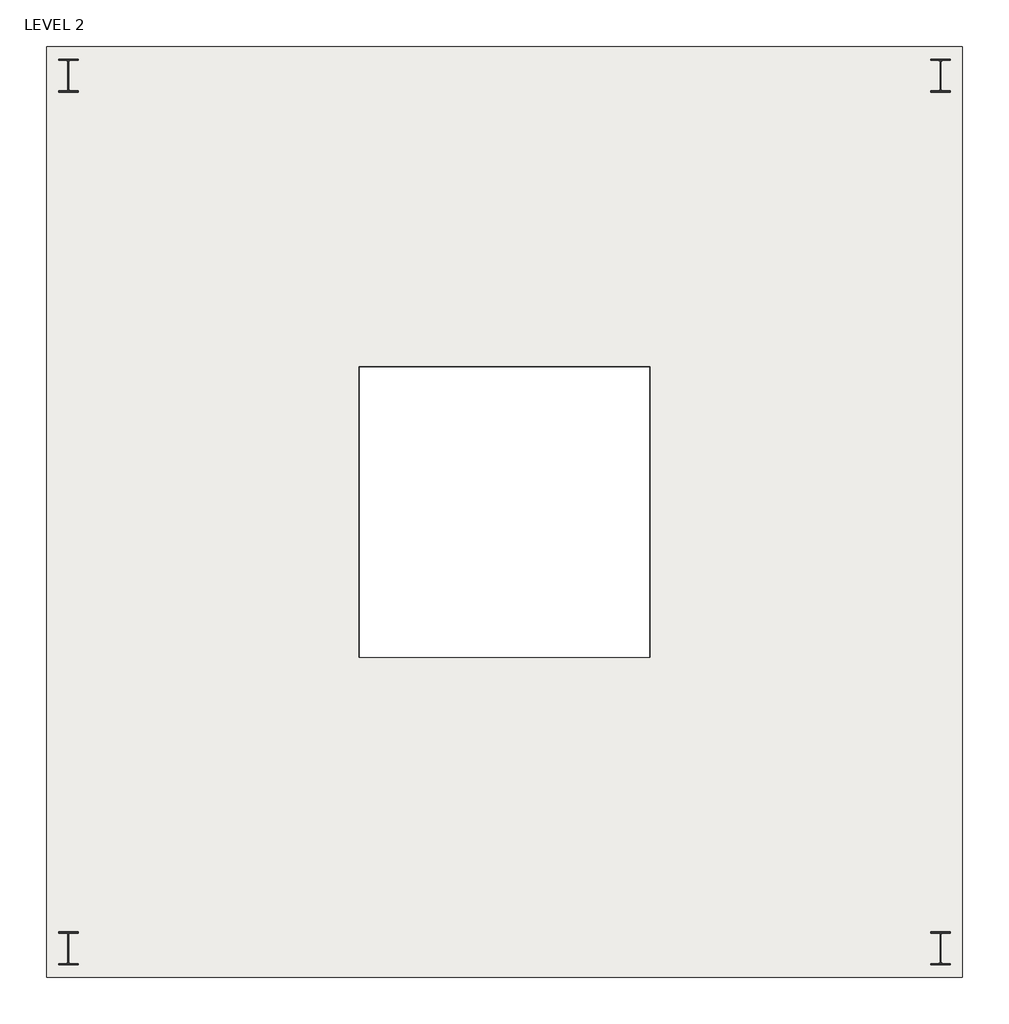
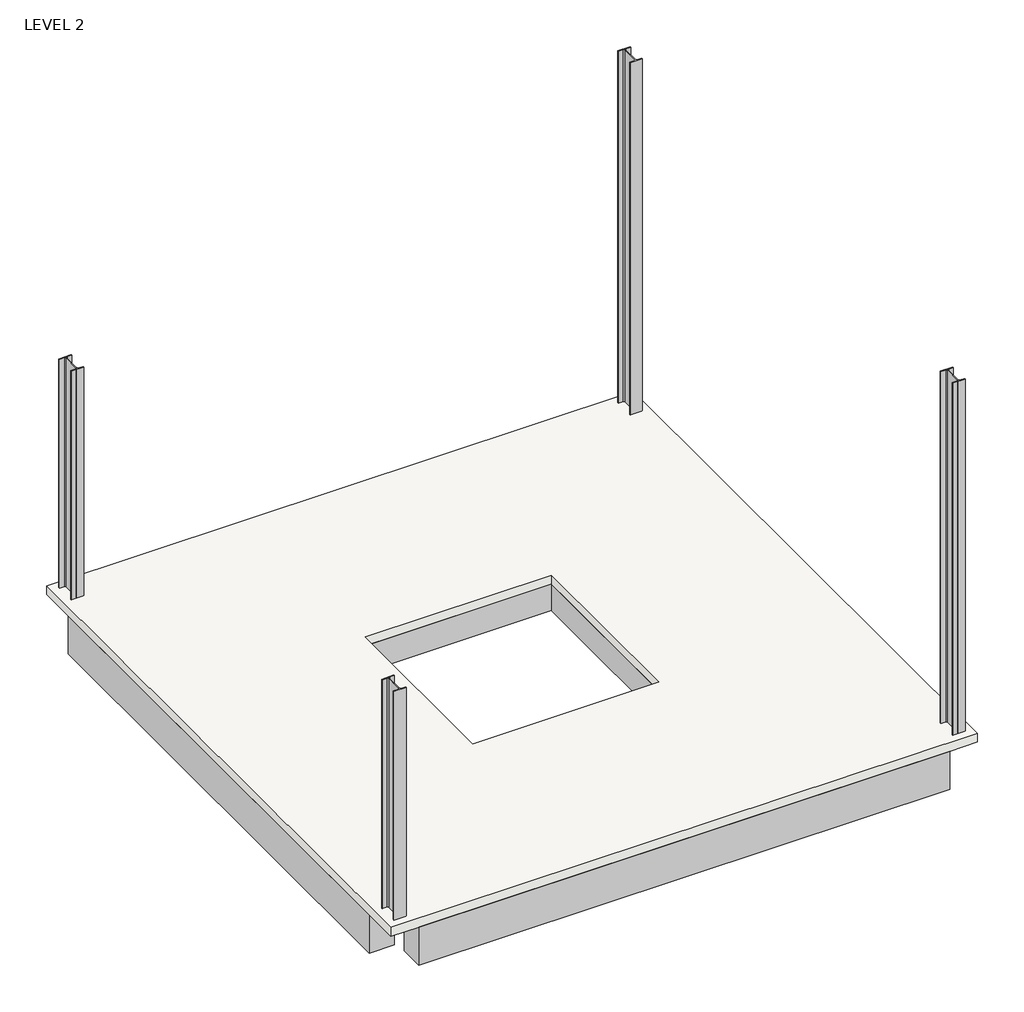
# One storey: 7 beams, 4 columns, 1 slab.
"""IFC4 building model written with IfcOpenShell, lengths in millimetres."""

from ifc_helpers import new_model, si_unit, point, frame, frame_2d, origin, place, context, project, spatial, polyline, circle_curve, trimmed, segment, composite_curve, outline, extrude, faceted_brep, element, save

model = new_model("IFC4")

# Units and contexts
model_context = context("Model", 3, world=origin())
ifc_project = project(units=[si_unit("LENGTHUNIT", "METRE", prefix="MILLI")], contexts=[model_context])

# Site, building, storey
site = spatial("IfcSite", under=ifc_project)
building = spatial("IfcBuilding", under=site)
storey = spatial("IfcBuildingStorey", under=building, Name="LEVEL 2", Elevation=3048.0)

# Beams
placement = place(None, origin())
element("IfcBeam", 1, ObjectType="Concrete-Rectangular Beam : 12 x 24", at=placement, inside=storey, context=model_context, shape_type="Brep", body=[
    faceted_brep([(-1524.0, 1524.0, 2895.6), (-1524.0, -1524.0, 2895.6), (-1524.0, -2133.6, 2895.6), (-1524.0, -2438.4, 2895.6), (-1524.0, -4470.4, 2895.6), (-1524.0, -4470.4, 2438.4), (-1524.0, -2438.4, 2438.4), (-1524.0, -2133.6, 2438.4), (-1524.0, 1524.0, 2438.4), (-1524.0, 1828.8, 2438.4), (-1524.0, 4470.4, 2438.4), (-1524.0, 4470.4, 2895.6), (-1524.0, 1828.8, 2895.6), (-1828.8, 4470.4, 2438.4), (-1828.8, -4470.4, 2438.4), (-1828.8, 4470.4, 2895.6), (-1828.8, -4470.4, 2895.6)], [[[0, 1, 2, 3, 4, 5, 6, 7, 8, 9, 10, 11, 12]], [[13, 10, 9, 8, 7, 6, 5, 14]], [[15, 13, 14, 16]], [[1, 0, 12, 11, 15, 16, 4, 3, 2]], [[11, 10, 13, 15]], [[5, 4, 16, 14]]]),
])
element("IfcBeam", 2, ObjectType="Concrete-Rectangular Beam : 12 x 24", at=placement, inside=storey, context=model_context, shape_type="Brep", body=[
    faceted_brep([(1524.0, -1524.0, 2895.6), (1524.0, 1524.0, 2895.6), (1524.0, 1828.8, 2895.6), (1524.0, 4470.4, 2895.6), (1524.0, 4470.4, 2438.4), (1524.0, 1828.8, 2438.4), (1524.0, 1524.0, 2438.4), (1524.0, -2133.6, 2438.4), (1524.0, -2438.4, 2438.4), (1524.0, -4470.4, 2438.4), (1524.0, -4470.4, 2895.6), (1524.0, -2438.4, 2895.6), (1524.0, -2133.6, 2895.6), (1828.8, 4470.4, 2438.4), (1828.8, -4470.4, 2438.4), (1828.8, 4470.4, 2895.6), (1828.8, -4470.4, 2895.6)], [[[0, 1, 2, 3, 4, 5, 6, 7, 8, 9, 10, 11, 12]], [[4, 13, 14, 9, 8, 7, 6, 5]], [[13, 15, 16, 14]], [[1, 0, 12, 11, 10, 16, 15, 3, 2]], [[4, 3, 15, 13]], [[10, 9, 14, 16]]]),
])
element("IfcBeam", 3, ObjectType="Concrete-Rectangular Beam : 12 x 24", at=placement, inside=storey, context=model_context, shape_type="SweptSolid", body=[
    extrude(outline(polyline([(-1524.0, -2438.4), (-1524.0, -2133.6), (1524.0, -2133.6), (1524.0, -2438.4), (-1524.0, -2438.4)])), frame((0.0, 0.0, 2438.4), z_axis=(0.0, 0.0, 1.0), x_axis=(1.0, 0.0, 0.0)), (0.0, 0.0, 1.0), 457.2),
])
element("IfcBeam", 4, ObjectType="Concrete-Rectangular Beam : 12 x 24", at=placement, inside=storey, context=model_context, shape_type="SweptSolid", body=[
    extrude(outline(polyline([(-1524.0, 1524.0), (-1524.0, 1828.8), (1524.0, 1828.8), (1524.0, 1524.0), (-1524.0, 1524.0)])), frame((0.0, 0.0, 2438.4), z_axis=(0.0, 0.0, 1.0), x_axis=(1.0, 0.0, 0.0)), (0.0, 0.0, 1.0), 457.2),
])
element("IfcBeam", 5, ObjectType="Concrete-Rectangular Beam : 16 x 32", at=placement, inside=storey, context=model_context, shape_type="Brep", body=[
    faceted_brep([(4343.4, 4876.8, 2235.2), (-4343.4, 4876.8, 2235.2), (-4343.4, 4876.8, 2895.6), (4343.4, 4876.8, 2895.6), (-4343.4, 4470.4, 2235.2), (4343.4, 4470.4, 2235.2), (4343.4, 4470.4, 2895.6), (1828.8, 4470.4, 2895.6), (1524.0, 4470.4, 2895.6), (-1524.0, 4470.4, 2895.6), (-1828.8, 4470.4, 2895.6), (-4343.4, 4470.4, 2895.6)], [[[0, 1, 2, 3]], [[4, 1, 0, 5]], [[4, 5, 6, 7, 8, 9, 10, 11]], [[1, 4, 11, 2]], [[0, 3, 6, 5]], [[3, 2, 11, 10, 9, 8, 7, 6]]]),
])
element("IfcBeam", 6, ObjectType="Concrete-Rectangular Beam : 16 x 32", at=placement, inside=storey, context=model_context, shape_type="Brep", body=[
    faceted_brep([(-4343.4, -4876.8, 2235.2), (4343.4, -4876.8, 2235.2), (4343.4, -4876.8, 2895.6), (-4343.4, -4876.8, 2895.6), (-4343.4, -4470.4, 2235.2), (4343.4, -4470.4, 2235.2), (-4343.4, -4470.4, 2895.6), (-1828.8, -4470.4, 2895.6), (-1524.0, -4470.4, 2895.6), (1524.0, -4470.4, 2895.6), (1828.8, -4470.4, 2895.6), (4343.4, -4470.4, 2895.6)], [[[0, 1, 2, 3]], [[0, 4, 5, 1]], [[5, 4, 6, 7, 8, 9, 10, 11]], [[4, 0, 3, 6]], [[2, 1, 5, 11]], [[3, 2, 11, 10, 9, 8, 7, 6]]]),
])
element("IfcBeam", 7, ObjectType="Concrete-Rectangular Beam : 16 x 32", at=placement, inside=storey, context=model_context, shape_type="SweptSolid", body=[
    extrude(outline(polyline([(-4800.6, 4267.2), (-4394.2, 4267.2), (-4394.2, -4267.2), (-4800.6, -4267.2), (-4800.6, 4267.2)])), frame((0.0, 0.0, 2235.2), z_axis=(0.0, 0.0, 1.0), x_axis=(1.0, 0.0, 0.0)), (0.0, 0.0, 1.0), 660.4),
])

# Columns
element("IfcColumn", 8, ObjectType="W-Wide Flange-Column : W14X43", at=placement, inside=storey, context=model_context, shape_type="SweptSolid", body=[
    extrude(outline(composite_curve([segment(polyline([(-4470.4496094, 4745.4839844), (-4470.4496094, 4731.9902344), (-4546.6992187, 4731.9902344)]), True, "CONTINUOUS"), segment(trimmed(circle_curve(frame_2d((-4546.6992187, 4710.5589844)), 21.43125), [point((-4546.6992187, 4731.9902344))], [point((-4568.1304687, 4710.5589844))], True, "CARTESIAN"), True, "CONTINUOUS"), segment(polyline([(-4568.1304687, 4710.5589844), (-4568.1304687, 4433.4410156)]), True, "CONTINUOUS"), segment(trimmed(circle_curve(frame_2d((-4546.6992187, 4433.4410156)), 21.43125), [point((-4568.1304687, 4433.4410156))], [point((-4546.6992187, 4412.0097656))], True, "CARTESIAN"), True, "CONTINUOUS"), segment(polyline([(-4546.6992187, 4412.0097656), (-4470.4496094, 4412.0097656), (-4470.4496094, 4398.5160156), (-4673.5503906, 4398.5160156), (-4673.5503906, 4412.0097656), (-4597.3007812, 4412.0097656)]), True, "CONTINUOUS"), segment(trimmed(circle_curve(frame_2d((-4597.3007812, 4433.4410156)), 21.43125), [point((-4597.3007812, 4412.0097656))], [point((-4575.8695312, 4433.4410156))], True, "CARTESIAN"), True, "CONTINUOUS"), segment(polyline([(-4575.8695312, 4433.4410156), (-4575.8695312, 4710.5589844)]), True, "CONTINUOUS"), segment(trimmed(circle_curve(frame_2d((-4597.3007812, 4710.5589844)), 21.43125), [point((-4575.8695312, 4710.5589844))], [point((-4597.3007812, 4731.9902344))], True, "CARTESIAN"), True, "CONTINUOUS"), segment(polyline([(-4597.3007812, 4731.9902344), (-4673.5503906, 4731.9902344), (-4673.5503906, 4745.4839844), (-4470.4496094, 4745.4839844)]), True, "CONTINUOUS")], self_intersect=False)), frame((0.0, 0.0, 3048.0), z_axis=(0.0, 0.0, 1.0), x_axis=(1.0, 0.0, 0.0)), (0.0, 0.0, 1.0), 3962.4),
])
element("IfcColumn", 9, ObjectType="W-Wide Flange-Column : W14X43", at=placement, inside=storey, context=model_context, shape_type="SweptSolid", body=[
    extrude(outline(composite_curve([segment(polyline([(4673.5503906, 4745.4839844), (4673.5503906, 4731.9902344), (4597.3007813, 4731.9902344)]), True, "CONTINUOUS"), segment(trimmed(circle_curve(frame_2d((4597.3007813, 4710.5589844)), 21.43125), [point((4597.3007813, 4731.9902344))], [point((4575.8695313, 4710.5589844))], True, "CARTESIAN"), True, "CONTINUOUS"), segment(polyline([(4575.8695313, 4710.5589844), (4575.8695313, 4433.4410156)]), True, "CONTINUOUS"), segment(trimmed(circle_curve(frame_2d((4597.3007813, 4433.4410156)), 21.43125), [point((4575.8695313, 4433.4410156))], [point((4597.3007813, 4412.0097656))], True, "CARTESIAN"), True, "CONTINUOUS"), segment(polyline([(4597.3007813, 4412.0097656), (4673.5503906, 4412.0097656), (4673.5503906, 4398.5160156), (4470.4496094, 4398.5160156), (4470.4496094, 4412.0097656), (4546.6992188, 4412.0097656)]), True, "CONTINUOUS"), segment(trimmed(circle_curve(frame_2d((4546.6992188, 4433.4410156)), 21.43125), [point((4546.6992188, 4412.0097656))], [point((4568.1304688, 4433.4410156))], True, "CARTESIAN"), True, "CONTINUOUS"), segment(polyline([(4568.1304688, 4433.4410156), (4568.1304688, 4710.5589844)]), True, "CONTINUOUS"), segment(trimmed(circle_curve(frame_2d((4546.6992188, 4710.5589844)), 21.43125), [point((4568.1304688, 4710.5589844))], [point((4546.6992188, 4731.9902344))], True, "CARTESIAN"), True, "CONTINUOUS"), segment(polyline([(4546.6992188, 4731.9902344), (4470.4496094, 4731.9902344), (4470.4496094, 4745.4839844), (4673.5503906, 4745.4839844)]), True, "CONTINUOUS")], self_intersect=False)), frame((0.0, 0.0, 3048.0), z_axis=(0.0, 0.0, 1.0), x_axis=(1.0, 0.0, 0.0)), (0.0, 0.0, 1.0), 6096.0),
])
element("IfcColumn", 10, ObjectType="W-Wide Flange-Column : W14X43", at=placement, inside=storey, context=model_context, shape_type="SweptSolid", body=[
    extrude(outline(composite_curve([segment(polyline([(4673.5503906, -4398.5160156), (4673.5503906, -4412.0097656), (4597.3007813, -4412.0097656)]), True, "CONTINUOUS"), segment(trimmed(circle_curve(frame_2d((4597.3007813, -4433.4410156)), 21.43125), [point((4597.3007813, -4412.0097656))], [point((4575.8695313, -4433.4410156))], True, "CARTESIAN"), True, "CONTINUOUS"), segment(polyline([(4575.8695313, -4433.4410156), (4575.8695313, -4710.5589844)]), True, "CONTINUOUS"), segment(trimmed(circle_curve(frame_2d((4597.3007813, -4710.5589844)), 21.43125), [point((4575.8695313, -4710.5589844))], [point((4597.3007813, -4731.9902344))], True, "CARTESIAN"), True, "CONTINUOUS"), segment(polyline([(4597.3007813, -4731.9902344), (4673.5503906, -4731.9902344), (4673.5503906, -4745.4839844), (4470.4496094, -4745.4839844), (4470.4496094, -4731.9902344), (4546.6992188, -4731.9902344)]), True, "CONTINUOUS"), segment(trimmed(circle_curve(frame_2d((4546.6992188, -4710.5589844)), 21.43125), [point((4546.6992188, -4731.9902344))], [point((4568.1304688, -4710.5589844))], True, "CARTESIAN"), True, "CONTINUOUS"), segment(polyline([(4568.1304688, -4710.5589844), (4568.1304688, -4433.4410156)]), True, "CONTINUOUS"), segment(trimmed(circle_curve(frame_2d((4546.6992188, -4433.4410156)), 21.43125), [point((4568.1304688, -4433.4410156))], [point((4546.6992188, -4412.0097656))], True, "CARTESIAN"), True, "CONTINUOUS"), segment(polyline([(4546.6992188, -4412.0097656), (4470.4496094, -4412.0097656), (4470.4496094, -4398.5160156), (4673.5503906, -4398.5160156)]), True, "CONTINUOUS")], self_intersect=False)), frame((0.0, 0.0, 3048.0), z_axis=(0.0, 0.0, 1.0), x_axis=(1.0, 0.0, 0.0)), (0.0, 0.0, 1.0), 6096.0),
])
element("IfcColumn", 11, ObjectType="W-Wide Flange-Column : W14X43", at=placement, inside=storey, context=model_context, shape_type="SweptSolid", body=[
    extrude(outline(composite_curve([segment(polyline([(-4470.4496094, -4398.5160156), (-4470.4496094, -4412.0097656), (-4546.6992187, -4412.0097656)]), True, "CONTINUOUS"), segment(trimmed(circle_curve(frame_2d((-4546.6992187, -4433.4410156)), 21.43125), [point((-4546.6992187, -4412.0097656))], [point((-4568.1304687, -4433.4410156))], True, "CARTESIAN"), True, "CONTINUOUS"), segment(polyline([(-4568.1304687, -4433.4410156), (-4568.1304687, -4710.5589844)]), True, "CONTINUOUS"), segment(trimmed(circle_curve(frame_2d((-4546.6992187, -4710.5589844)), 21.43125), [point((-4568.1304687, -4710.5589844))], [point((-4546.6992187, -4731.9902344))], True, "CARTESIAN"), True, "CONTINUOUS"), segment(polyline([(-4546.6992187, -4731.9902344), (-4470.4496094, -4731.9902344), (-4470.4496094, -4745.4839844), (-4673.5503906, -4745.4839844), (-4673.5503906, -4731.9902344), (-4597.3007812, -4731.9902344)]), True, "CONTINUOUS"), segment(trimmed(circle_curve(frame_2d((-4597.3007812, -4710.5589844)), 21.43125), [point((-4597.3007812, -4731.9902344))], [point((-4575.8695312, -4710.5589844))], True, "CARTESIAN"), True, "CONTINUOUS"), segment(polyline([(-4575.8695312, -4710.5589844), (-4575.8695312, -4433.4410156)]), True, "CONTINUOUS"), segment(trimmed(circle_curve(frame_2d((-4597.3007812, -4433.4410156)), 21.43125), [point((-4575.8695312, -4433.4410156))], [point((-4597.3007812, -4412.0097656))], True, "CARTESIAN"), True, "CONTINUOUS"), segment(polyline([(-4597.3007812, -4412.0097656), (-4673.5503906, -4412.0097656), (-4673.5503906, -4398.5160156), (-4470.4496094, -4398.5160156)]), True, "CONTINUOUS")], self_intersect=False)), frame((0.0, 0.0, 3048.0), z_axis=(0.0, 0.0, 1.0), x_axis=(1.0, 0.0, 0.0)), (0.0, 0.0, 1.0), 3962.4),
])

# Slab
element("IfcSlab", 12, ObjectType="6\" Concrete", at=placement, inside=storey, context=model_context, shape_type="Brep", body=[
    faceted_brep([(4800.6, 4876.8, 2895.6), (4800.6, -4876.8, 2895.6), (4343.4, -4876.8, 2895.6), (-4343.4, -4876.8, 2895.6), (-4800.6, -4876.8, 2895.6), (-4800.6, -4267.2, 2895.6), (-4800.6, 4267.2, 2895.6), (-4800.6, 4876.8, 2895.6), (-4343.4, 4876.8, 2895.6), (4343.4, 4876.8, 2895.6), (1524.0, -1524.0, 2895.6), (1524.0, 1524.0, 2895.6), (-1524.0, 1524.0, 2895.6), (-1524.0, -1524.0, 2895.6), (4800.6, -4876.8, 3048.0), (4800.6, 4876.8, 3048.0), (-4800.6, 4876.8, 3048.0), (-4800.6, -4876.8, 3048.0), (1524.0, 1524.0, 3048.0), (1524.0, -1524.0, 3048.0), (-1524.0, -1524.0, 3048.0), (-1524.0, 1524.0, 3048.0)], [[[0, 1, 2, 3, 4, 5, 6, 7, 8, 9], [10, 11, 12, 13]], [[14, 15, 16, 17], [18, 19, 20, 21]], [[1, 0, 15, 14]], [[4, 3, 2, 1, 14, 17]], [[7, 6, 5, 4, 17, 16]], [[0, 9, 8, 7, 16, 15]], [[10, 19, 18, 11]], [[11, 18, 21, 12]], [[12, 21, 20, 13]], [[19, 10, 13, 20]]]),
])

save(model, "model.ifc")
